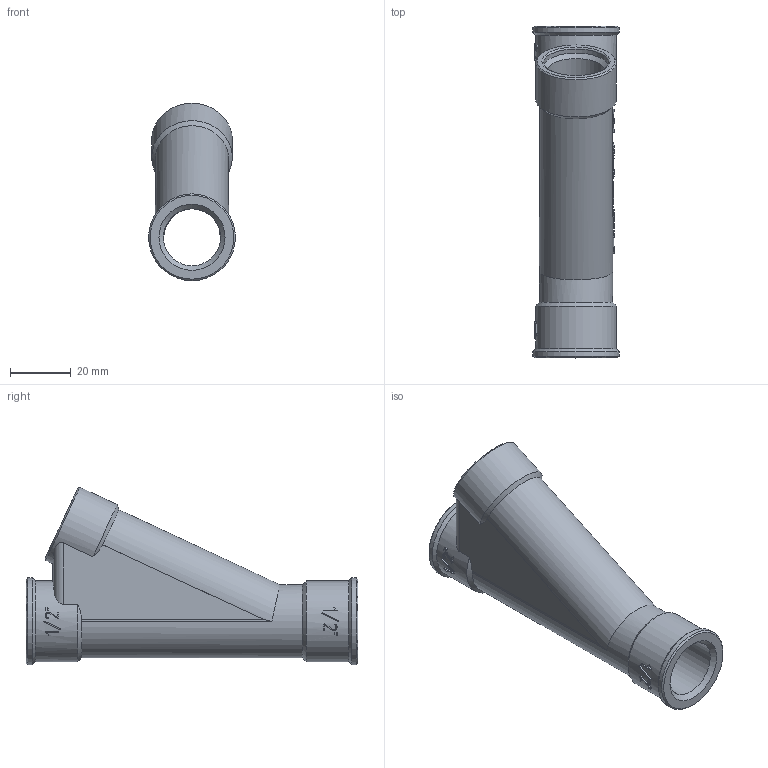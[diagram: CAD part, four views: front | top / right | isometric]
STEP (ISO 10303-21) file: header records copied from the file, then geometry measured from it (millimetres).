
FILE_DESCRIPTION(('STEP AP203'), '1');
FILE_NAME('ÂÐ.752246.001 - VTr.136.N.0404 - Ôèò. ðåçüá. òðîé. êîñ', '2024-06-26T12:39:47', ('Boss'), (''), 'C3D Converter', 'C3D Toolkit', '');
FILE_SCHEMA(('CONFIG_CONTROL_DESIGN'));
Length unit declared in the file: millimetre
Products named in the file (1): ВР.752246.001
Bounding box: 28.5 x 109 x 58.25 mm (x, y, z)
Volume: 36860.5 mm3; surface area: 21576.7 mm2
Topology: 1 solids, 1 shells, 294 faces, 829 edges, 549 vertices
Faces by surface type: plane 128, extrusion 116, cylinder 36, cone 11, bspline 2, torus 1
Full cylindrical faces by diameter (mm): 18.7 x2, 21.4 x1, 24 x1, 26.5 x3, 28.5 x2
Entity records: 12723 total; most frequent: CARTESIAN_POINT 5935, ORIENTED_EDGE 1614, DIRECTION 991, EDGE_CURVE 807, VERTEX_POINT 548, VECTOR 483, B_SPLINE_CURVE_WITH_KNOTS 369, LINE 367
